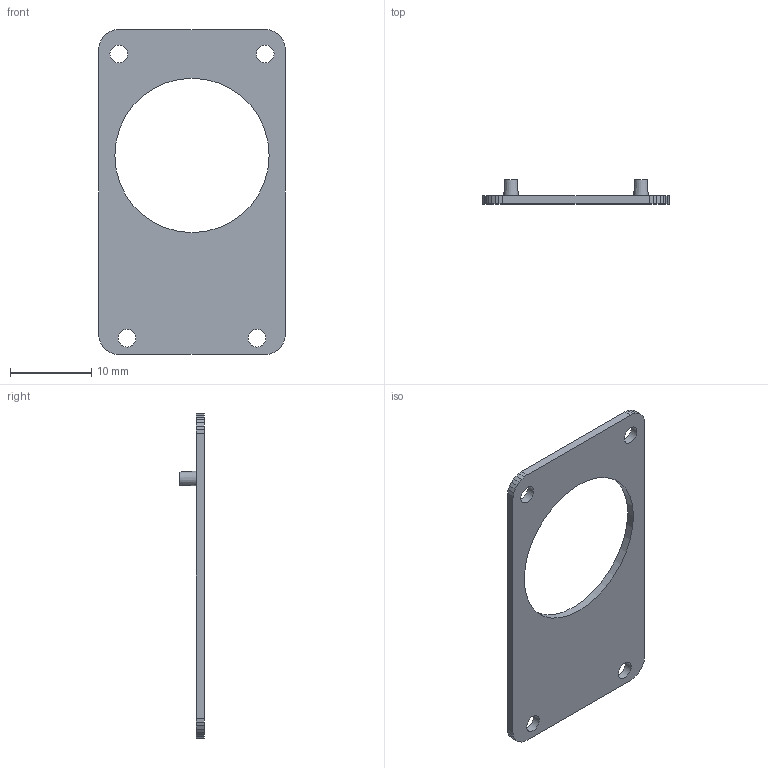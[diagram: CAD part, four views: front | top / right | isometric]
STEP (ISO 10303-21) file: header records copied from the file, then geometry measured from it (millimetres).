
FILE_DESCRIPTION(('FreeCAD Model'),'2;1');
FILE_NAME('Open CASCADE Shape Model','2026-09-09T20:58:29',('Author'),( ''),'Open CASCADE STEP processor 7.8','FreeCAD','Unknown');
FILE_SCHEMA(('AUTOMOTIVE_DESIGN { 1 0 10303 214 1 1 1 1 }'));
Length unit declared in the file: millimetre
Products named in the file (1): microduck-bearing-roll
Bounding box: 23 x 3 x 40 mm (x, y, z)
Volume: 624.9 mm3; surface area: 1460.9 mm2
Topology: 1 solids, 1 shells, 47 faces, 129 edges, 86 vertices
Faces by surface type: plane 40, cylinder 5, cone 2
Full cylindrical faces by diameter (mm): 2.2 x4, 19 x1
Entity records: 1507 total; most frequent: CARTESIAN_POINT 263, ORIENTED_EDGE 258, DIRECTION 239, EDGE_CURVE 129, LINE 115, VECTOR 115, VERTEX_POINT 86, AXIS2_PLACEMENT_3D 62
